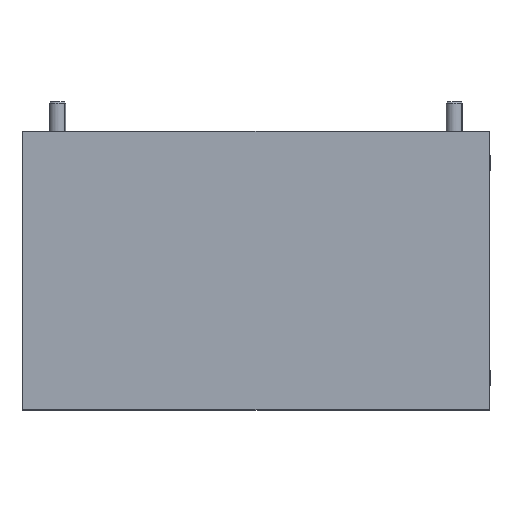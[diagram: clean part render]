
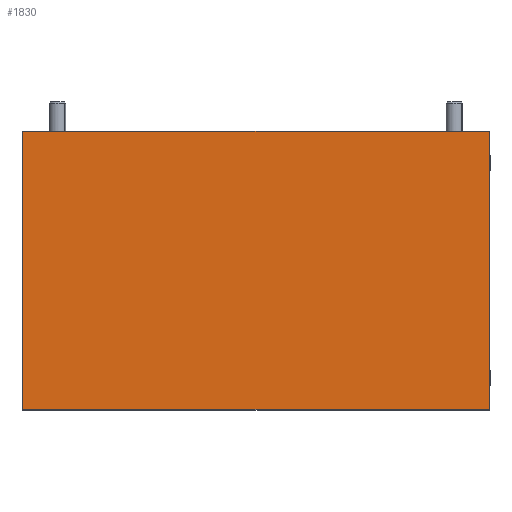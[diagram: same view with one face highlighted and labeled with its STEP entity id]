
A CAD part, top view. The second image highlights one B-rep face of the part: STEP entity #1830.
In plain terms, the highlighted planar face has unit normal (0, 0, 1) as drawn and (0, 0, -1) by its records, which use the part's own axes.
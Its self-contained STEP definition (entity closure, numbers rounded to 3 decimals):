
#719 = VECTOR ( 'NONE', #6527, 1000. ) ;
#1030 = AXIS2_PLACEMENT_3D ( 'NONE', #12792, #4528, #7728 ) ;
#1491 = FACE_OUTER_BOUND ( 'NONE', #8194, .T. ) ;
#1830 = ADVANCED_FACE ( 'NONE', ( #1491 ), #4596, .T. ) ;
#1866 = LINE ( 'NONE', #5991, #2134 ) ;
#2086 = DIRECTION ( 'NONE',  ( 0., 1., 0. ) ) ;
#2134 = VECTOR ( 'NONE', #10152, 1000. ) ;
#2396 = CARTESIAN_POINT ( 'NONE',  ( -167.75, 0., -2.5 ) ) ;
#2694 = ORIENTED_EDGE ( 'NONE', *, *, #6526, .F. ) ;
#2877 = EDGE_CURVE ( 'NONE', #3338, #6463, #1866, .T. ) ;
#3259 = VECTOR ( 'NONE', #11289, 1000. ) ;
#3338 = VERTEX_POINT ( 'NONE', #3792 ) ;
#3359 = ORIENTED_EDGE ( 'NONE', *, *, #2877, .F. ) ;
#3792 = CARTESIAN_POINT ( 'NONE',  ( 167.75, 100., -2.5 ) ) ;
#3996 = CARTESIAN_POINT ( 'NONE',  ( -167.75, 100., -2.5 ) ) ;
#4219 = CARTESIAN_POINT ( 'NONE',  ( -167.75, -100., -2.5 ) ) ;
#4528 = DIRECTION ( 'NONE',  ( 0., 0., -1. ) ) ;
#4596 = PLANE ( 'NONE',  #1030 ) ;
#5280 = LINE ( 'NONE', #8406, #3259 ) ;
#5991 = CARTESIAN_POINT ( 'NONE',  ( 0., 100., -2.5 ) ) ;
#6153 = LINE ( 'NONE', #10300, #11626 ) ;
#6463 = VERTEX_POINT ( 'NONE', #3996 ) ;
#6526 = EDGE_CURVE ( 'NONE', #12364, #11754, #5280, .T. ) ;
#6527 = DIRECTION ( 'NONE',  ( 0., -1., 0. ) ) ;
#7728 = DIRECTION ( 'NONE',  ( -1., 0., 0. ) ) ;
#8194 = EDGE_LOOP ( 'NONE', ( #10812, #2694, #10262, #3359 ) ) ;
#8406 = CARTESIAN_POINT ( 'NONE',  ( 0., -100., -2.5 ) ) ;
#8848 = LINE ( 'NONE', #2396, #719 ) ;
#8888 = EDGE_CURVE ( 'NONE', #6463, #12364, #8848, .T. ) ;
#10152 = DIRECTION ( 'NONE',  ( -1., 0., 0. ) ) ;
#10262 = ORIENTED_EDGE ( 'NONE', *, *, #8888, .F. ) ;
#10300 = CARTESIAN_POINT ( 'NONE',  ( 167.75, 0., -2.5 ) ) ;
#10812 = ORIENTED_EDGE ( 'NONE', *, *, #11556, .F. ) ;
#11289 = DIRECTION ( 'NONE',  ( 1., 0., 0. ) ) ;
#11556 = EDGE_CURVE ( 'NONE', #11754, #3338, #6153, .T. ) ;
#11626 = VECTOR ( 'NONE', #2086, 1000. ) ;
#11736 = CARTESIAN_POINT ( 'NONE',  ( 167.75, -100., -2.5 ) ) ;
#11754 = VERTEX_POINT ( 'NONE', #11736 ) ;
#12364 = VERTEX_POINT ( 'NONE', #4219 ) ;
#12792 = CARTESIAN_POINT ( 'NONE',  ( 0., 0., -2.5 ) ) ;
